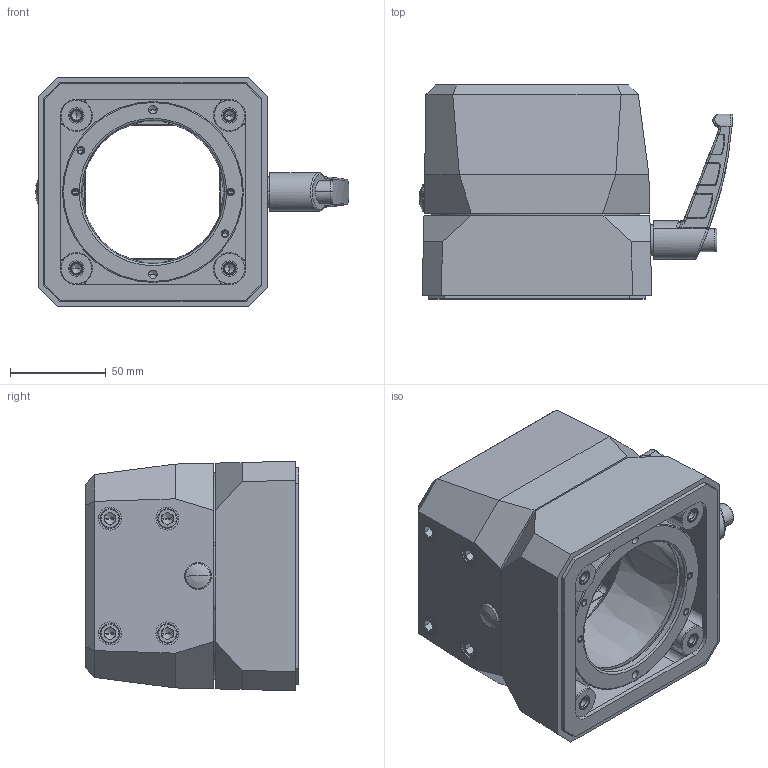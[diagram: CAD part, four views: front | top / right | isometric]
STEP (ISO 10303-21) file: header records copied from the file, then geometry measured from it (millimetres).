
FILE_DESCRIPTION((''),'2;1');
FILE_NAME('1016702000_ASM','2024-09-11T09:31:34',('silke.otte'),(''),'CREO PARAMETRIC BY PTC INC, 2022124','CREO PARAMETRIC BY PTC INC, 2022124','');
FILE_SCHEMA(('AUTOMOTIVE_DESIGN { 1 0 10303 214 1 1 1 1 }'));
Products named in the file (19): 9620240000; 9502258000; 9231016000; 9324132000_01_AF0; 9324132000_02_AF0; 9324132000_02_AF1; 9324132000_02_AF2; 9324132000_02_AF3; 9324132000_AF0_ASM; 9620237000_ASM; 9411111000_EINB_AF0; 9502260000; 9281851000; 9251044000_AF0; 9263051000; 9263034000; 9231632000; 9372035000; 1016702000_ASM
Assembly tree (22 placements, depth 4):
  1016702000_ASM
    9620240000
    9502258000
    9231016000
    9620237000_ASM
      9324132000_AF0_ASM
        9324132000_01_AF0
        9324132000_02_AF0
        9324132000_02_AF1
        9324132000_02_AF2
        9324132000_02_AF3
    9411111000_EINB_AF0
    9502260000
    9281851000
    9251044000_AF0
    9263051000  x2
    9263034000  x4
    9231632000
    9372035000
Bounding box: 163.83 x 111.7 x 120 mm (x, y, z)
Volume: 746584.9 mm3; surface area: 212752.8 mm2
Topology: 20 solids, 41 shells, 1532 faces, 3683 edges, 2210 vertices
Faces by surface type: plane 801, cylinder 277, cone 178, bspline 151, torus 111, sphere 14
Entity records: 85672 total; most frequent: CARTESIAN_POINT 19363, DIRECTION 7186, ORIENTED_EDGE 6712, PRESENTATION_STYLE_ASSIGNMENT 3544, STYLED_ITEM 3539, CURVE_STYLE 3507, EDGE_CURVE 3401, PROPERTY_DEFINITION 2830
